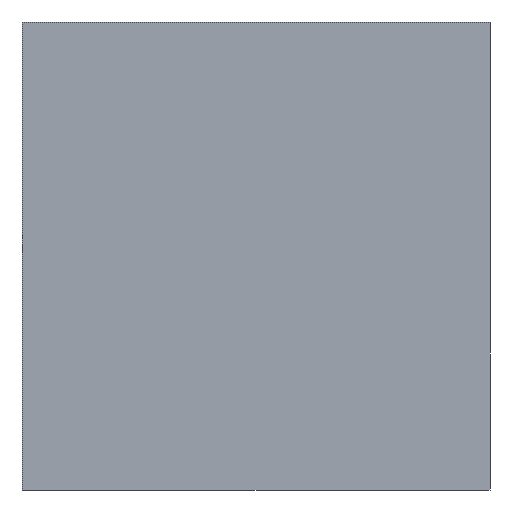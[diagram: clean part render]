
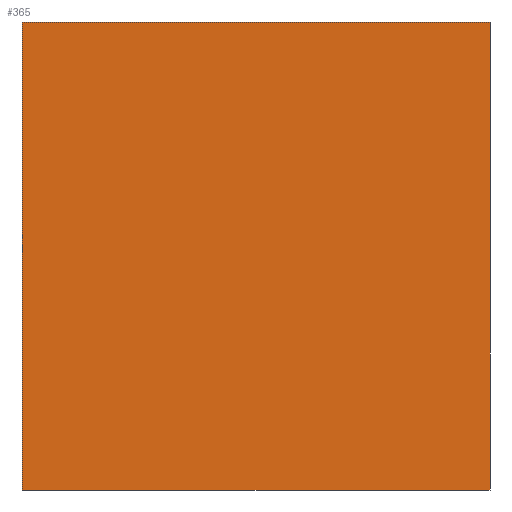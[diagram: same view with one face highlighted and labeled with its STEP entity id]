
A CAD part, left-side view. The second image highlights one B-rep face of the part: STEP entity #365.
In plain terms, the highlighted planar face has unit normal (-1, 0, 0).
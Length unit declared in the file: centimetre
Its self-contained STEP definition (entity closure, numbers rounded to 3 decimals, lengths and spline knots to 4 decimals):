
#17 = VERTEX_POINT ( 'NONE', #72 ) ;
#64 = FACE_OUTER_BOUND ( 'NONE', #82, .T. ) ;
#65 = DIRECTION ( 'NONE',  ( 0., -1., 0. ) ) ;
#70 = DIRECTION ( 'NONE',  ( 1., 0., 0. ) ) ;
#72 = CARTESIAN_POINT ( 'NONE',  ( 0., 0., 1000. ) ) ;
#74 = DIRECTION ( 'NONE',  ( 0., 0., -1. ) ) ;
#82 = EDGE_LOOP ( 'NONE', ( #483, #191, #229, #207 ) ) ;
#93 = DIRECTION ( 'NONE',  ( 0., -1., 0. ) ) ;
#115 = VERTEX_POINT ( 'NONE', #237 ) ;
#147 = CARTESIAN_POINT ( 'NONE',  ( 0., 1000., 1000. ) ) ;
#148 = VECTOR ( 'NONE', #65, 100. ) ;
#159 = VECTOR ( 'NONE', #406, 100. ) ;
#165 = LINE ( 'NONE', #318, #246 ) ;
#172 = VERTEX_POINT ( 'NONE', #199 ) ;
#191 = ORIENTED_EDGE ( 'NONE', *, *, #328, .F. ) ;
#199 = CARTESIAN_POINT ( 'NONE',  ( 0., 0., 0. ) ) ;
#207 = ORIENTED_EDGE ( 'NONE', *, *, #361, .T. ) ;
#209 = CARTESIAN_POINT ( 'NONE',  ( 0., 0., 1000. ) ) ;
#212 = PLANE ( 'NONE',  #233 ) ;
#224 = LINE ( 'NONE', #366, #148 ) ;
#229 = ORIENTED_EDGE ( 'NONE', *, *, #317, .F. ) ;
#233 = AXIS2_PLACEMENT_3D ( 'NONE', #298, #70, #444 ) ;
#237 = CARTESIAN_POINT ( 'NONE',  ( 0., 1000., 0. ) ) ;
#246 = VECTOR ( 'NONE', #93, 100. ) ;
#253 = LINE ( 'NONE', #147, #159 ) ;
#262 = VECTOR ( 'NONE', #74, 100. ) ;
#291 = EDGE_CURVE ( 'NONE', #115, #172, #165, .T. ) ;
#298 = CARTESIAN_POINT ( 'NONE',  ( 0., 1000., 1000. ) ) ;
#317 = EDGE_CURVE ( 'NONE', #334, #17, #224, .T. ) ;
#318 = CARTESIAN_POINT ( 'NONE',  ( 0., 1000., 0. ) ) ;
#328 = EDGE_CURVE ( 'NONE', #17, #172, #482, .T. ) ;
#334 = VERTEX_POINT ( 'NONE', #446 ) ;
#361 = EDGE_CURVE ( 'NONE', #334, #115, #253, .T. ) ;
#365 = ADVANCED_FACE ( 'NONE', ( #64 ), #212, .F. ) ;
#366 = CARTESIAN_POINT ( 'NONE',  ( 0., 1000., 1000. ) ) ;
#406 = DIRECTION ( 'NONE',  ( 0., 0., -1. ) ) ;
#444 = DIRECTION ( 'NONE',  ( 0., 0., -1. ) ) ;
#446 = CARTESIAN_POINT ( 'NONE',  ( 0., 1000., 1000. ) ) ;
#482 = LINE ( 'NONE', #209, #262 ) ;
#483 = ORIENTED_EDGE ( 'NONE', *, *, #291, .T. ) ;
